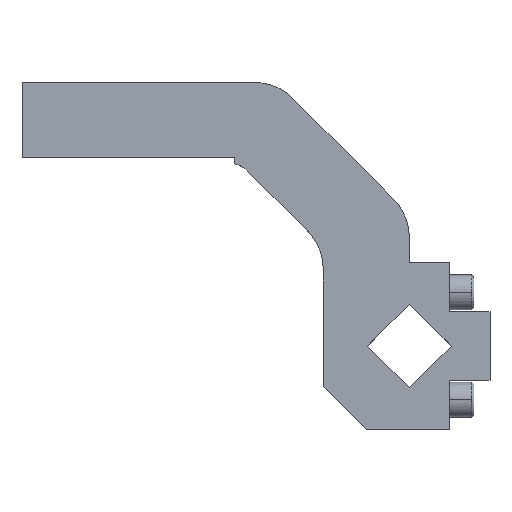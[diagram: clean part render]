
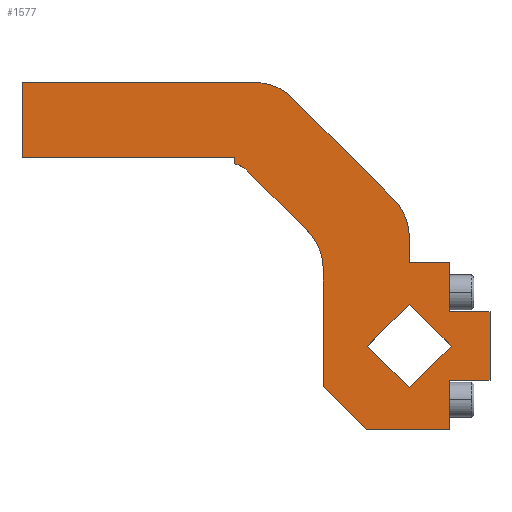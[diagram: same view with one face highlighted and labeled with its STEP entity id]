
A CAD part, top view. The second image highlights one B-rep face of the part: STEP entity #1577.
In plain terms, the highlighted planar face has unit normal (0, 0, 1).
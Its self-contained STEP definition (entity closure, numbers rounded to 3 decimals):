
#605=CARTESIAN_POINT('',(15.556,0.,20.));
#606=VERTEX_POINT('',#605);
#613=CARTESIAN_POINT('',(0.,15.556,20.0));
#614=VERTEX_POINT('',#613);
#615=CARTESIAN_POINT('',(0.,15.556,20.0));
#616=DIRECTION('',(0.707,-0.707,0.));
#617=VECTOR('',#616,22.);
#618=LINE('',#615,#617);
#619=EDGE_CURVE('',#614,#606,#618,.T.);
#643=CARTESIAN_POINT('',(0.,-15.556,20.0));
#644=VERTEX_POINT('',#643);
#651=CARTESIAN_POINT('',(15.556,0.,20.));
#652=DIRECTION('',(-0.707,-0.707,0.));
#653=VECTOR('',#652,22.);
#654=LINE('',#651,#653);
#655=EDGE_CURVE('',#606,#644,#654,.T.);
#676=CARTESIAN_POINT('',(15.,-12.75,20.));
#677=VERTEX_POINT('',#676);
#684=CARTESIAN_POINT('',(15.,-31.,20.));
#685=VERTEX_POINT('',#684);
#686=CARTESIAN_POINT('',(15.,-31.,20.));
#687=DIRECTION('',(0.0,1.0,0.0));
#688=VECTOR('',#687,18.25);
#689=LINE('',#686,#688);
#690=EDGE_CURVE('',#685,#677,#689,.T.);
#718=CARTESIAN_POINT('',(30.,-12.75,20.));
#719=VERTEX_POINT('',#718);
#726=CARTESIAN_POINT('',(15.,-12.75,20.));
#727=DIRECTION('',(1.0,0.0,0.0));
#728=VECTOR('',#727,15.0);
#729=LINE('',#726,#728);
#730=EDGE_CURVE('',#677,#719,#729,.T.);
#749=CARTESIAN_POINT('',(30.,12.75,20.));
#750=VERTEX_POINT('',#749);
#757=CARTESIAN_POINT('',(30.,-12.75,20.));
#758=DIRECTION('',(0.0,1.0,0.0));
#759=VECTOR('',#758,25.5);
#760=LINE('',#757,#759);
#761=EDGE_CURVE('',#719,#750,#760,.T.);
#780=CARTESIAN_POINT('',(15.,12.75,20.));
#781=VERTEX_POINT('',#780);
#788=CARTESIAN_POINT('',(30.,12.75,20.));
#789=DIRECTION('',(-1.0,0.0,0.0));
#790=VECTOR('',#789,15.0);
#791=LINE('',#788,#790);
#792=EDGE_CURVE('',#750,#781,#791,.T.);
#811=CARTESIAN_POINT('',(15.,31.,20.));
#812=VERTEX_POINT('',#811);
#819=CARTESIAN_POINT('',(15.,12.75,20.));
#820=DIRECTION('',(0.0,1.0,0.0));
#821=VECTOR('',#820,18.25);
#822=LINE('',#819,#821);
#823=EDGE_CURVE('',#781,#812,#822,.T.);
#838=CARTESIAN_POINT('',(0.,31.,20.));
#839=VERTEX_POINT('',#838);
#848=CARTESIAN_POINT('',(15.,31.,20.));
#849=DIRECTION('',(-1.0,0.0,0.0));
#850=VECTOR('',#849,15.);
#851=LINE('',#848,#850);
#852=EDGE_CURVE('',#812,#839,#851,.T.);
#878=CARTESIAN_POINT('',(0.,40.506,20.0));
#879=VERTEX_POINT('',#878);
#886=CARTESIAN_POINT('',(0.,40.506,20.0));
#887=DIRECTION('',(0.,-1.0,0.));
#888=VECTOR('',#887,9.506);
#889=LINE('',#886,#888);
#890=EDGE_CURVE('',#879,#839,#889,.T.);
#1020=CARTESIAN_POINT('',(-43.352,92.142,20.0));
#1021=VERTEX_POINT('',#1020);
#1022=CARTESIAN_POINT('',(-5.858,54.648,20.0));
#1023=VERTEX_POINT('',#1022);
#1024=CARTESIAN_POINT('',(-43.352,92.142,20.0));
#1025=DIRECTION('',(0.707,-0.707,0.0));
#1026=VECTOR('',#1025,53.024);
#1027=LINE('',#1024,#1026);
#1028=EDGE_CURVE('',#1021,#1023,#1027,.T.);
#1060=CARTESIAN_POINT('',(-20.,40.506,20.0));
#1061=DIRECTION('',(0.0,0.0,-1.0));
#1062=DIRECTION('',(1.0,0.0,0.0));
#1063=AXIS2_PLACEMENT_3D('',#1060,#1061,#1062);
#1064=CIRCLE('',#1063,20.);
#1065=EDGE_CURVE('',#1023,#879,#1064,.T.);
#1084=CARTESIAN_POINT('',(-15.556,0.0,20.0));
#1085=VERTEX_POINT('',#1084);
#1086=CARTESIAN_POINT('',(0.,15.556,20.0));
#1087=DIRECTION('',(-0.707,-0.707,0.0));
#1088=VECTOR('',#1087,22.);
#1089=LINE('',#1086,#1088);
#1090=EDGE_CURVE('',#614,#1085,#1089,.T.);
#1115=CARTESIAN_POINT('',(-15.556,0.0,20.0));
#1116=DIRECTION('',(0.707,-0.707,0.0));
#1117=VECTOR('',#1116,22.);
#1118=LINE('',#1115,#1117);
#1119=EDGE_CURVE('',#1085,#644,#1118,.T.);
#1137=CARTESIAN_POINT('',(-16.,-31.,20.0));
#1138=VERTEX_POINT('',#1137);
#1139=CARTESIAN_POINT('',(15.,-31.,20.));
#1140=DIRECTION('',(-1.0,0.0,0.0));
#1141=VECTOR('',#1140,31.);
#1142=LINE('',#1139,#1141);
#1143=EDGE_CURVE('',#685,#1138,#1142,.T.);
#1168=CARTESIAN_POINT('',(-32.,-15.,20.0));
#1169=VERTEX_POINT('',#1168);
#1170=CARTESIAN_POINT('',(-16.,-31.,20.0));
#1171=DIRECTION('',(-0.707,0.707,0.0));
#1172=VECTOR('',#1171,22.627);
#1173=LINE('',#1170,#1172);
#1174=EDGE_CURVE('',#1138,#1169,#1173,.T.);
#1199=CARTESIAN_POINT('',(-32.,28.665,20.0));
#1200=VERTEX_POINT('',#1199);
#1201=CARTESIAN_POINT('',(-32.,-15.,20.0));
#1202=DIRECTION('',(0.0,1.0,0.0));
#1203=VECTOR('',#1202,43.665);
#1204=LINE('',#1201,#1203);
#1205=EDGE_CURVE('',#1169,#1200,#1204,.T.);
#1230=CARTESIAN_POINT('',(-37.858,42.808,20.0));
#1231=VERTEX_POINT('',#1230);
#1232=CARTESIAN_POINT('',(-52.,28.665,20.0));
#1233=DIRECTION('',(0.0,0.0,1.0));
#1234=DIRECTION('',(-1.0,0.0,0.0));
#1235=AXIS2_PLACEMENT_3D('',#1232,#1233,#1234);
#1236=CIRCLE('',#1235,20.0);
#1237=EDGE_CURVE('',#1200,#1231,#1236,.T.);
#1263=CARTESIAN_POINT('',(-60.121,65.071,20.0));
#1264=VERTEX_POINT('',#1263);
#1265=CARTESIAN_POINT('',(-37.858,42.808,20.0));
#1266=DIRECTION('',(-0.707,0.707,0.0));
#1267=VECTOR('',#1266,31.485);
#1268=LINE('',#1265,#1267);
#1269=EDGE_CURVE('',#1231,#1264,#1268,.T.);
#1294=CARTESIAN_POINT('',(-65.,67.757,20.0));
#1295=VERTEX_POINT('',#1294);
#1296=CARTESIAN_POINT('',(-67.192,58.,20.0));
#1297=DIRECTION('',(0.0,0.0,1.));
#1298=DIRECTION('',(-0.707,-0.707,0.0));
#1299=AXIS2_PLACEMENT_3D('',#1296,#1297,#1298);
#1300=CIRCLE('',#1299,10.);
#1301=EDGE_CURVE('',#1264,#1295,#1300,.T.);
#1327=CARTESIAN_POINT('',(-65.,70.,20.0));
#1328=VERTEX_POINT('',#1327);
#1329=CARTESIAN_POINT('',(-65.,67.757,20.0));
#1330=DIRECTION('',(0.,1.0,0.0));
#1331=VECTOR('',#1330,2.243);
#1332=LINE('',#1329,#1331);
#1333=EDGE_CURVE('',#1295,#1328,#1332,.T.);
#1358=CARTESIAN_POINT('',(-144.,70.,20.0));
#1359=VERTEX_POINT('',#1358);
#1360=CARTESIAN_POINT('',(-65.,70.,20.0));
#1361=DIRECTION('',(-1.0,0.0,0.0));
#1362=VECTOR('',#1361,79.0);
#1363=LINE('',#1360,#1362);
#1364=EDGE_CURVE('',#1328,#1359,#1363,.T.);
#1409=CARTESIAN_POINT('',(-144.,98.,20.0));
#1410=VERTEX_POINT('',#1409);
#1411=CARTESIAN_POINT('',(-144.,70.,20.0));
#1412=DIRECTION('',(0.0,1.0,0.0));
#1413=VECTOR('',#1412,28.);
#1414=LINE('',#1411,#1413);
#1415=EDGE_CURVE('',#1359,#1410,#1414,.T.);
#1440=CARTESIAN_POINT('',(-57.494,98.,20.0));
#1441=VERTEX_POINT('',#1440);
#1442=CARTESIAN_POINT('',(-144.,98.,20.0));
#1443=DIRECTION('',(1.0,0.0,0.0));
#1444=VECTOR('',#1443,86.506);
#1445=LINE('',#1442,#1444);
#1446=EDGE_CURVE('',#1410,#1441,#1445,.T.);
#1491=CARTESIAN_POINT('',(-57.494,78.,20.0));
#1492=DIRECTION('',(0.0,0.0,-1.));
#1493=DIRECTION('',(0.707,0.707,0.0));
#1494=AXIS2_PLACEMENT_3D('',#1491,#1492,#1493);
#1495=CIRCLE('',#1494,20.);
#1496=EDGE_CURVE('',#1441,#1021,#1495,.T.);
#1544=CARTESIAN_POINT('',(-56.259,49.885,20.0));
#1545=DIRECTION('',(0.0,0.0,1.0));
#1546=DIRECTION('',(1.0,0.0,0.0));
#1547=AXIS2_PLACEMENT_3D('',#1544,#1545,#1546);
#1548=PLANE('',#1547);
#1549=ORIENTED_EDGE('',*,*,#1143,.F.);
#1550=ORIENTED_EDGE('',*,*,#690,.T.);
#1551=ORIENTED_EDGE('',*,*,#730,.T.);
#1552=ORIENTED_EDGE('',*,*,#761,.T.);
#1553=ORIENTED_EDGE('',*,*,#792,.T.);
#1554=ORIENTED_EDGE('',*,*,#823,.T.);
#1555=ORIENTED_EDGE('',*,*,#852,.T.);
#1556=ORIENTED_EDGE('',*,*,#890,.F.);
#1557=ORIENTED_EDGE('',*,*,#1065,.F.);
#1558=ORIENTED_EDGE('',*,*,#1028,.F.);
#1559=ORIENTED_EDGE('',*,*,#1496,.F.);
#1560=ORIENTED_EDGE('',*,*,#1446,.F.);
#1561=ORIENTED_EDGE('',*,*,#1415,.F.);
#1562=ORIENTED_EDGE('',*,*,#1364,.F.);
#1563=ORIENTED_EDGE('',*,*,#1333,.F.);
#1564=ORIENTED_EDGE('',*,*,#1301,.F.);
#1565=ORIENTED_EDGE('',*,*,#1269,.F.);
#1566=ORIENTED_EDGE('',*,*,#1237,.F.);
#1567=ORIENTED_EDGE('',*,*,#1205,.F.);
#1568=ORIENTED_EDGE('',*,*,#1174,.F.);
#1569=EDGE_LOOP('',(#1549,#1550,#1551,#1552,#1553,#1554,#1555,#1556,#1557,#1558,#1559,#1560,#1561,#1562,#1563,#1564,#1565,#1566,#1567,#1568));
#1570=FACE_OUTER_BOUND('',#1569,.T.);
#1571=ORIENTED_EDGE('',*,*,#1119,.F.);
#1572=ORIENTED_EDGE('',*,*,#1090,.F.);
#1573=ORIENTED_EDGE('',*,*,#619,.T.);
#1574=ORIENTED_EDGE('',*,*,#655,.T.);
#1575=EDGE_LOOP('',(#1571,#1572,#1573,#1574));
#1576=FACE_BOUND('',#1575,.T.);
#1577=ADVANCED_FACE('',(#1570,#1576),#1548,.T.);
